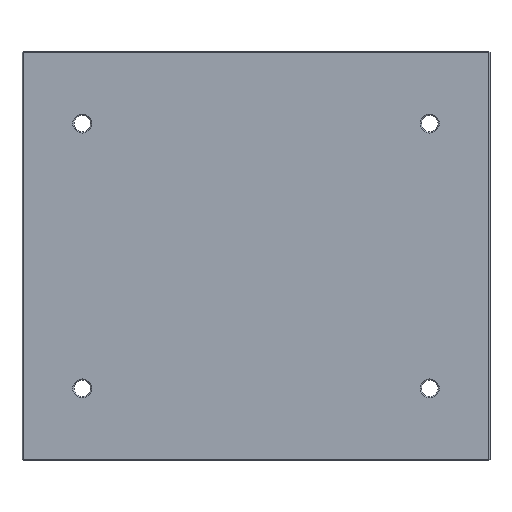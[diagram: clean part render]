
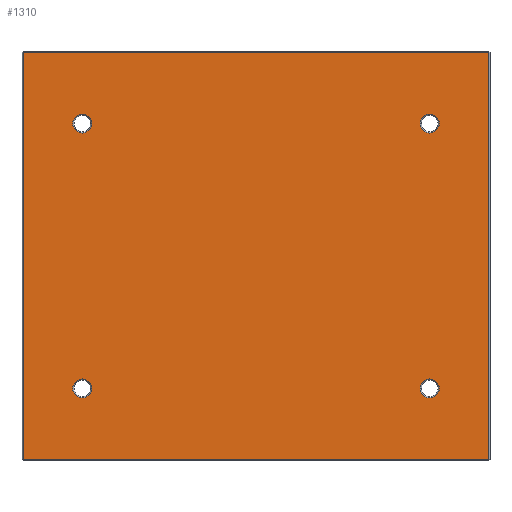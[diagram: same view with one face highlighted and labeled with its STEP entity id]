
A CAD part, front view. The second image highlights one B-rep face of the part: STEP entity #1310.
In plain terms, the highlighted planar face has unit normal (0, -1, 0).
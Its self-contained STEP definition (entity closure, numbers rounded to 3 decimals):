
#1 = AXIS2_PLACEMENT_3D ( 'NONE', #941, #933, #799 ) ;
#32 = VERTEX_POINT ( 'NONE', #802 ) ;
#52 = EDGE_CURVE ( 'NONE', #287, #490, #460, .T. ) ;
#62 = DIRECTION ( 'NONE',  ( 0., 0., 1. ) ) ;
#87 = ORIENTED_EDGE ( 'NONE', *, *, #1194, .T. ) ;
#102 = VERTEX_POINT ( 'NONE', #863 ) ;
#105 = VERTEX_POINT ( 'NONE', #948 ) ;
#106 = FACE_BOUND ( 'NONE', #1389, .T. ) ;
#142 = VERTEX_POINT ( 'NONE', #523 ) ;
#145 = FACE_BOUND ( 'NONE', #765, .T. ) ;
#148 = LINE ( 'NONE', #1102, #769 ) ;
#165 = AXIS2_PLACEMENT_3D ( 'NONE', #733, #558, #1591 ) ;
#196 = EDGE_CURVE ( 'NONE', #105, #659, #974, .T. ) ;
#212 = CARTESIAN_POINT ( 'NONE',  ( 197., 0., 0. ) ) ;
#214 = DIRECTION ( 'NONE',  ( 0., 1., 0. ) ) ;
#233 = ORIENTED_EDGE ( 'NONE', *, *, #52, .T. ) ;
#234 = CARTESIAN_POINT ( 'NONE',  ( 147., 0., -120. ) ) ;
#238 = EDGE_CURVE ( 'NONE', #490, #287, #571, .T. ) ;
#287 = VERTEX_POINT ( 'NONE', #419 ) ;
#308 = CIRCLE ( 'NONE', #338, 8. ) ;
#338 = AXIS2_PLACEMENT_3D ( 'NONE', #1096, #1088, #1078 ) ;
#340 = CARTESIAN_POINT ( 'NONE',  ( -147., 0., -112. ) ) ;
#365 = EDGE_LOOP ( 'NONE', ( #87, #895 ) ) ;
#380 = EDGE_CURVE ( 'NONE', #536, #451, #592, .T. ) ;
#419 = CARTESIAN_POINT ( 'NONE',  ( -147., 0., 104. ) ) ;
#437 = EDGE_LOOP ( 'NONE', ( #1101, #876 ) ) ;
#445 = AXIS2_PLACEMENT_3D ( 'NONE', #1446, #689, #1440 ) ;
#451 = VERTEX_POINT ( 'NONE', #551 ) ;
#456 = VECTOR ( 'NONE', #1167, 1000. ) ;
#460 = CIRCLE ( 'NONE', #445, 8. ) ;
#483 = EDGE_CURVE ( 'NONE', #1311, #1332, #1420, .T. ) ;
#490 = VERTEX_POINT ( 'NONE', #1428 ) ;
#501 = CARTESIAN_POINT ( 'NONE',  ( 197., 0., -172. ) ) ;
#504 = DIRECTION ( 'NONE',  ( 0., 0., -1. ) ) ;
#508 = ORIENTED_EDGE ( 'NONE', *, *, #380, .T. ) ;
#512 = ORIENTED_EDGE ( 'NONE', *, *, #929, .T. ) ;
#521 = CARTESIAN_POINT ( 'NONE',  ( -147., 0., -104. ) ) ;
#523 = CARTESIAN_POINT ( 'NONE',  ( 147., 0., 120. ) ) ;
#536 = VERTEX_POINT ( 'NONE', #1435 ) ;
#551 = CARTESIAN_POINT ( 'NONE',  ( -197., 0., 172. ) ) ;
#558 = DIRECTION ( 'NONE',  ( 0., 1., 0. ) ) ;
#563 = AXIS2_PLACEMENT_3D ( 'NONE', #1074, #1213, #950 ) ;
#571 = CIRCLE ( 'NONE', #1646, 8. ) ;
#592 = LINE ( 'NONE', #1579, #904 ) ;
#594 = ORIENTED_EDGE ( 'NONE', *, *, #1448, .T. ) ;
#601 = DIRECTION ( 'NONE',  ( 0., 0., 1. ) ) ;
#636 = EDGE_CURVE ( 'NONE', #102, #662, #1230, .T. ) ;
#639 = ORIENTED_EDGE ( 'NONE', *, *, #196, .T. ) ;
#653 = DIRECTION ( 'NONE',  ( 0., 1., 0. ) ) ;
#659 = VERTEX_POINT ( 'NONE', #501 ) ;
#662 = VERTEX_POINT ( 'NONE', #234 ) ;
#664 = CARTESIAN_POINT ( 'NONE',  ( -147., 0., 112. ) ) ;
#689 = DIRECTION ( 'NONE',  ( 0., 1., 0. ) ) ;
#733 = CARTESIAN_POINT ( 'NONE',  ( 147., 0., 112. ) ) ;
#765 = EDGE_LOOP ( 'NONE', ( #594, #1587 ) ) ;
#769 = VECTOR ( 'NONE', #504, 1000. ) ;
#789 = CIRCLE ( 'NONE', #1112, 8. ) ;
#799 = DIRECTION ( 'NONE',  ( 0., 0., 1. ) ) ;
#802 = CARTESIAN_POINT ( 'NONE',  ( 147., 0., 104. ) ) ;
#808 = FACE_BOUND ( 'NONE', #365, .T. ) ;
#813 = LINE ( 'NONE', #212, #456 ) ;
#863 = CARTESIAN_POINT ( 'NONE',  ( 147., 0., -104. ) ) ;
#872 = DIRECTION ( 'NONE',  ( 0., 0., 1. ) ) ;
#876 = ORIENTED_EDGE ( 'NONE', *, *, #1050, .T. ) ;
#890 = DIRECTION ( 'NONE',  ( 0., 1., 0. ) ) ;
#895 = ORIENTED_EDGE ( 'NONE', *, *, #1171, .T. ) ;
#904 = VECTOR ( 'NONE', #946, 1000. ) ;
#912 = ORIENTED_EDGE ( 'NONE', *, *, #1631, .T. ) ;
#929 = EDGE_CURVE ( 'NONE', #451, #105, #148, .T. ) ;
#933 = DIRECTION ( 'NONE',  ( 0., 1., 0. ) ) ;
#941 = CARTESIAN_POINT ( 'NONE',  ( 147., 0., -112. ) ) ;
#946 = DIRECTION ( 'NONE',  ( -1., 0., 0. ) ) ;
#948 = CARTESIAN_POINT ( 'NONE',  ( -197., 0., -172. ) ) ;
#950 = DIRECTION ( 'NONE',  ( 0., 0., 1. ) ) ;
#974 = LINE ( 'NONE', #1205, #1272 ) ;
#992 = CARTESIAN_POINT ( 'NONE',  ( 147., 0., -112. ) ) ;
#1050 = EDGE_CURVE ( 'NONE', #1332, #1311, #1299, .T. ) ;
#1060 = EDGE_LOOP ( 'NONE', ( #912, #508, #512, #639 ) ) ;
#1064 = DIRECTION ( 'NONE',  ( 0., 0., 1. ) ) ;
#1074 = CARTESIAN_POINT ( 'NONE',  ( -147., 0., -112. ) ) ;
#1078 = DIRECTION ( 'NONE',  ( 0., 0., 1. ) ) ;
#1088 = DIRECTION ( 'NONE',  ( 0., 1., 0. ) ) ;
#1096 = CARTESIAN_POINT ( 'NONE',  ( 147., 0., 112. ) ) ;
#1101 = ORIENTED_EDGE ( 'NONE', *, *, #483, .T. ) ;
#1102 = CARTESIAN_POINT ( 'NONE',  ( -197., 0., 0. ) ) ;
#1105 = CIRCLE ( 'NONE', #165, 8. ) ;
#1112 = AXIS2_PLACEMENT_3D ( 'NONE', #992, #890, #872 ) ;
#1120 = ORIENTED_EDGE ( 'NONE', *, *, #238, .T. ) ;
#1167 = DIRECTION ( 'NONE',  ( 0., 0., 1. ) ) ;
#1171 = EDGE_CURVE ( 'NONE', #142, #32, #1105, .T. ) ;
#1187 = DIRECTION ( 'NONE',  ( 0., 1., 0. ) ) ;
#1194 = EDGE_CURVE ( 'NONE', #32, #142, #308, .T. ) ;
#1205 = CARTESIAN_POINT ( 'NONE',  ( 0., 0., -172. ) ) ;
#1213 = DIRECTION ( 'NONE',  ( 0., 1., 0. ) ) ;
#1230 = CIRCLE ( 'NONE', #1, 8. ) ;
#1272 = VECTOR ( 'NONE', #1307, 1000. ) ;
#1299 = CIRCLE ( 'NONE', #1355, 8. ) ;
#1307 = DIRECTION ( 'NONE',  ( 1., 0., 0. ) ) ;
#1310 = ADVANCED_FACE ( 'NONE', ( #145, #808, #106, #1525, #1456 ), #1429, .F. ) ;
#1311 = VERTEX_POINT ( 'NONE', #1316 ) ;
#1316 = CARTESIAN_POINT ( 'NONE',  ( -147., 0., -120. ) ) ;
#1332 = VERTEX_POINT ( 'NONE', #521 ) ;
#1355 = AXIS2_PLACEMENT_3D ( 'NONE', #340, #214, #62 ) ;
#1389 = EDGE_LOOP ( 'NONE', ( #233, #1120 ) ) ;
#1420 = CIRCLE ( 'NONE', #563, 8. ) ;
#1428 = CARTESIAN_POINT ( 'NONE',  ( -147., 0., 120. ) ) ;
#1429 = PLANE ( 'NONE',  #1636 ) ;
#1435 = CARTESIAN_POINT ( 'NONE',  ( 197., 0., 172. ) ) ;
#1440 = DIRECTION ( 'NONE',  ( 0., 0., 1. ) ) ;
#1446 = CARTESIAN_POINT ( 'NONE',  ( -147., 0., 112. ) ) ;
#1448 = EDGE_CURVE ( 'NONE', #662, #102, #789, .T. ) ;
#1456 = FACE_OUTER_BOUND ( 'NONE', #1060, .T. ) ;
#1525 = FACE_BOUND ( 'NONE', #437, .T. ) ;
#1551 = CARTESIAN_POINT ( 'NONE',  ( 0., 0., 0. ) ) ;
#1579 = CARTESIAN_POINT ( 'NONE',  ( 0., 0., 172. ) ) ;
#1587 = ORIENTED_EDGE ( 'NONE', *, *, #636, .T. ) ;
#1591 = DIRECTION ( 'NONE',  ( 0., 0., 1. ) ) ;
#1631 = EDGE_CURVE ( 'NONE', #659, #536, #813, .T. ) ;
#1636 = AXIS2_PLACEMENT_3D ( 'NONE', #1551, #1187, #1064 ) ;
#1646 = AXIS2_PLACEMENT_3D ( 'NONE', #664, #653, #601 ) ;
